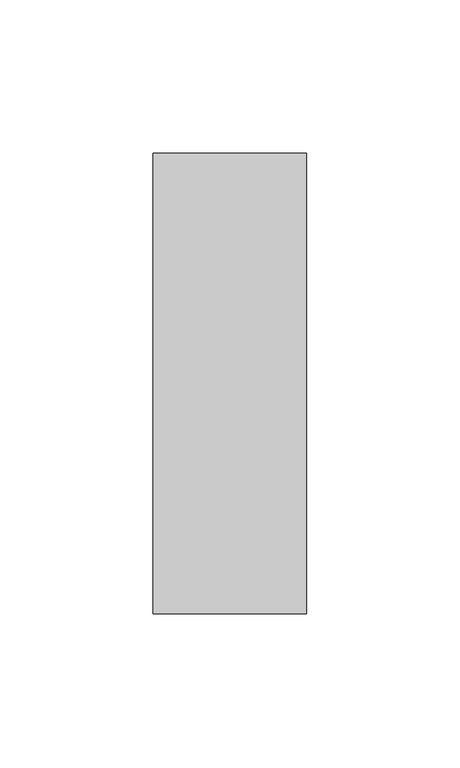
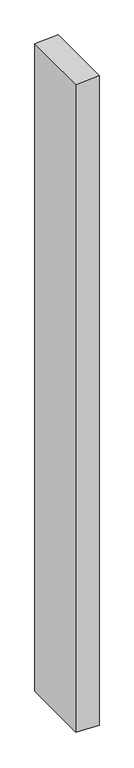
"""IFC4 building model written with IfcOpenShell, lengths in millimetres: member geometry, Прямоугольный импост : 50 x 150 мм."""

from ifc_helpers import new_model, si_unit, origin, place, context, project, spatial, faceted_brep, source, transform, mapped, element, save


def member_cb949505(model_context):
    return source(origin(), model_context, "Body", "Brep", [
        faceted_brep([(-25.0, 75.0, -0.3243831), (25.0, 75.0, 1.6564259), (25.0, 75.0, -1461.8984848), (-25.0, 75.0, -1460.1651926), (-25.0, -75.0, -1.6564259), (-25.0, -75.0, -1461.3116305), (25.0, -75.0, 0.3243831), (25.0, -75.0, -1463.0449227)], [[[0, 1, 2, 3]], [[4, 0, 3, 5]], [[6, 4, 5, 7]], [[1, 6, 7, 2]], [[1, 0, 4, 6]], [[2, 7, 5, 3]]]),
    ])


if __name__ == "__main__":
    model = new_model("IFC4")
    model_context = context("Model", 3, world=origin())
    ifc_project = project(units=[si_unit("LENGTHUNIT", "METRE", prefix="MILLI")], contexts=[model_context])
    site = spatial("IfcSite", under=ifc_project)
    building = spatial("IfcBuilding", under=site)
    placement = place(None, origin())
    member_shape = member_cb949505(model_context)
    element("IfcMember", 1, ObjectType="Прямоугольный импост : 50 x 150 мм", at=placement, inside=building, context=model_context, shape_type="MappedRepresentation", body=[
        mapped(member_shape, transform((0.0, 0.0, 0.0), x_axis=(1.0, 0.0, 0.0), y_axis=(0.0, 1.0, 0.0), z_axis=(0.0, 0.0, 1.0))),
    ])
    save(model, "model.ifc")
